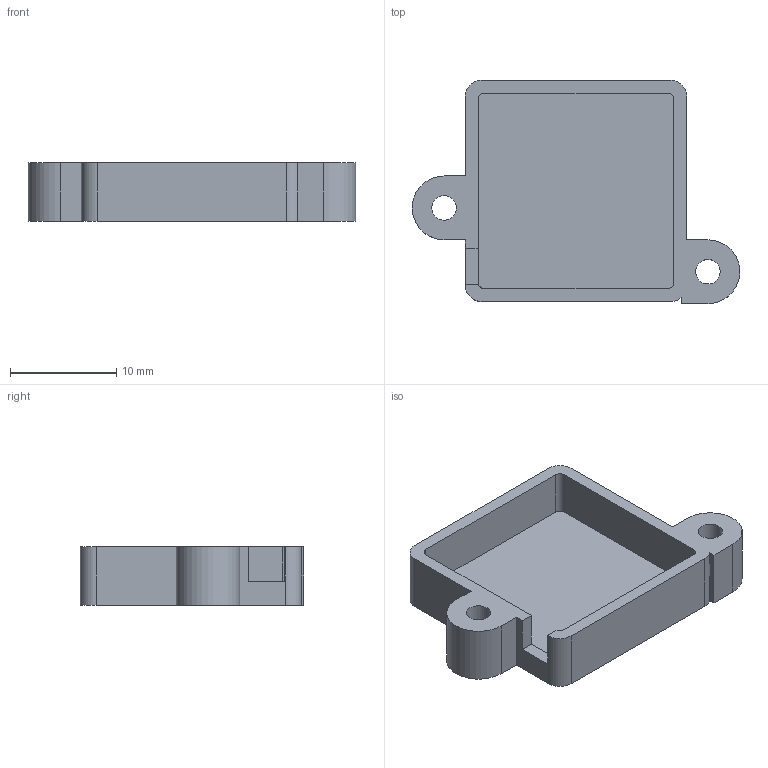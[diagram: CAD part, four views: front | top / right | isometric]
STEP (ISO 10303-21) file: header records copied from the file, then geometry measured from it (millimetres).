
FILE_DESCRIPTION(('Open CASCADE Model'),'2;1');
FILE_NAME('Open CASCADE Shape Model','2026-10-09T15:33:22',('Author'),( 'Open CASCADE'),'Open CASCADE STEP processor 7.9','Open CASCADE 7.9' ,'Unknown');
FILE_SCHEMA(('AUTOMOTIVE_DESIGN { 1 0 10303 214 1 1 1 1 }'));
Length unit declared in the file: millimetre
Products named in the file (1): Open CASCADE STEP translator 7.9 11
Bounding box: 30.8 x 21 x 5.5 mm (x, y, z)
Volume: 1145.3 mm3; surface area: 1860.9 mm2
Topology: 1 solids, 1 shells, 32 faces, 90 edges, 60 vertices
Faces by surface type: plane 20, cylinder 12
Full cylindrical faces by diameter (mm): 2.3 x2
Entity records: 2223 total; most frequent: CARTESIAN_POINT 439, DIRECTION 325, LINE 192, VECTOR 192, ORIENTED_EDGE 180, PCURVE 180, DEFINITIONAL_REPRESENTATION 180, EDGE_CURVE 90
